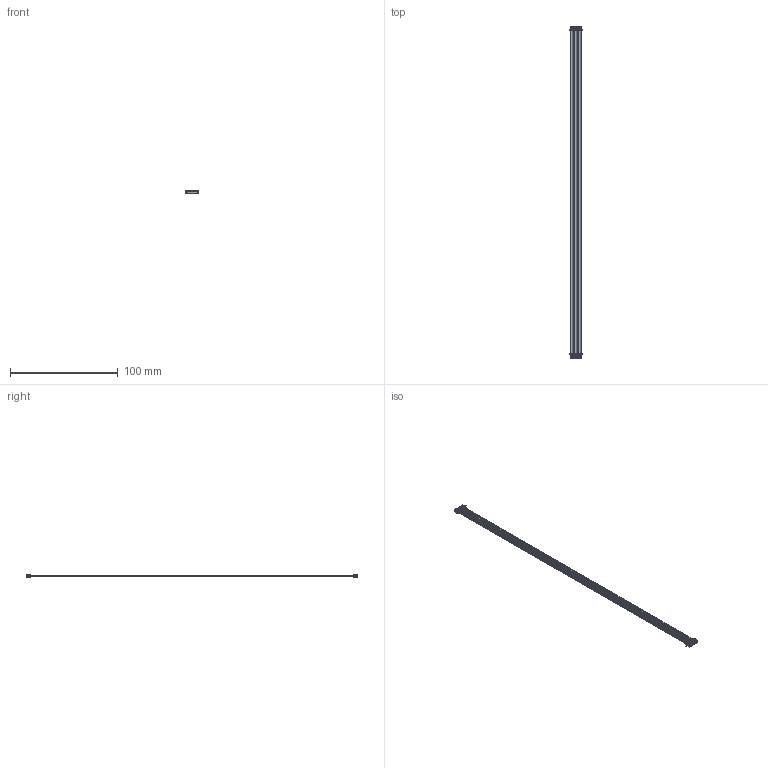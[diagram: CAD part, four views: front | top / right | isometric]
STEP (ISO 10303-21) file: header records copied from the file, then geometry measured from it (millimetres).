
FILE_DESCRIPTION((''),'2;1');
FILE_NAME('151340803','2019-12-25T',('gga'),(''),'PRO/ENGINEER BY PARAMETRIC TECHNOLOGY CORPORATION, 2016010','PRO/ENGINEER BY PARAMETRIC TECHNOLOGY CORPORATION, 2016010','');
FILE_SCHEMA(('CONFIG_CONTROL_DESIGN'));
Length unit declared in the file: millimetre
Products named in the file (1): 151340803
Bounding box: 11.75 x 307.9 x 3.2 mm (x, y, z)
Volume: 873.9 mm3; surface area: 5030.6 mm2
Topology: 1 solids, 1 shells, 798 faces, 2106 edges, 1340 vertices
Faces by surface type: plane 782, cylinder 16
Entity records: 23917 total; most frequent: CARTESIAN_POINT 4229, ORIENTED_EDGE 4196, DIRECTION 3736, EDGE_CURVE 2098, VECTOR 2074, LINE 2074, VERTEX_POINT 1324, EDGE_LOOP 834
